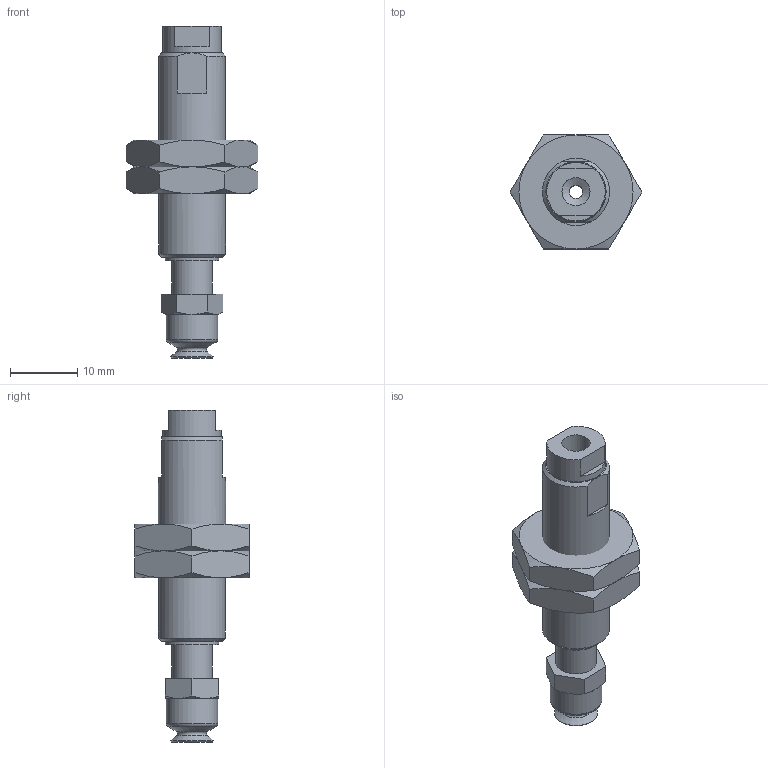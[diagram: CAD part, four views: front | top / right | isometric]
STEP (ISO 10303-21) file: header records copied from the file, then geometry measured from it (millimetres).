
FILE_DESCRIPTION(('STEP AP203'),'1');
FILE_NAME('-LB.stp','2025-04-10T08:01:04',(' '),(' '),'Spatial InterOp 3D',' ',' ');
FILE_SCHEMA(('CONFIG_CONTROL_DESIGN'));
Length unit declared in the file: millimetre
Products named in the file (8): BNABPFTH-6A-5-※-LB; __; BODY; NUT; TN-PS-10-M5; Setting screws-TN-PS-10-M5; BPFG-6A-※
Assembly tree (7 placements, depth 3):
  BNABPFTH-6A-5-※-LB
    __
    BODY
    NUT
    NUT
    TN-PS-10-M5
      Setting screws-TN-PS-10-M5
    BPFG-6A-※
Bounding box: 19.63 x 17 x 49.5 mm (x, y, z)
Volume: 4407.1 mm3; surface area: 3851.8 mm2
Topology: 6 solids, 6 shells, 125 faces, 265 edges, 159 vertices
Faces by surface type: plane 57, cone 41, cylinder 18, torus 8, bspline 1
Full cylindrical faces by diameter (mm): 2 x3, 3.9 x1, 4 x2, 4.2 x2, 5 x1, 6 x3, 7.7 x1, 8 x1, 8.7 x1, 9 x2, 10 x1
Entity records: 3617 total; most frequent: CARTESIAN_POINT 765, DIRECTION 518, ORIENTED_EDGE 442, AXIS2_PLACEMENT_3D 228, EDGE_CURVE 221, EDGE_LOOP 180, FACE_OUTER_BOUND 152, VERTEX_POINT 151
